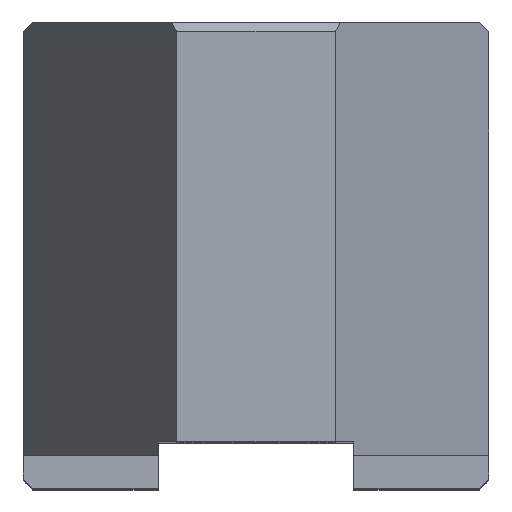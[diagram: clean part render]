
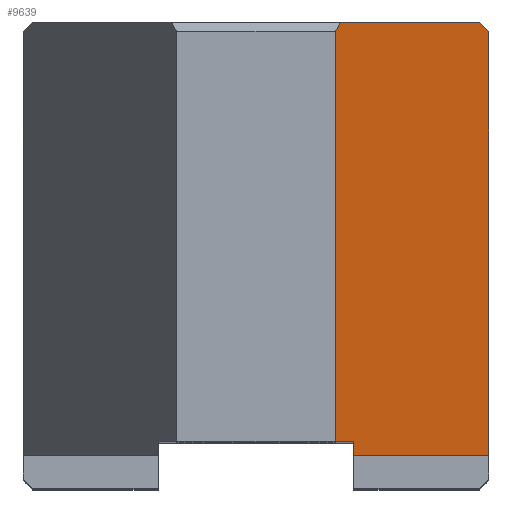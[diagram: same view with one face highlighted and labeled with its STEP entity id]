
A CAD part, top view. The second image highlights one B-rep face of the part: STEP entity #9639.
In plain terms, the highlighted planar face has unit normal (0.866, 0, 0.5).
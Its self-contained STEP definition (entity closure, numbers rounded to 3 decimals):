
#39=FACE_OUTER_BOUND('',#607,.T.);
#607=EDGE_LOOP('',(#6249,#6250,#6251,#6252,#6253,#6254,#6255,#6256));
#1181=LINE('',#13378,#2583);
#1182=LINE('',#13380,#2584);
#1183=LINE('',#13382,#2585);
#1184=LINE('',#13384,#2586);
#1185=LINE('',#13386,#2587);
#1186=LINE('',#13388,#2588);
#1187=LINE('',#13390,#2589);
#1188=LINE('',#13391,#2590);
#2583=VECTOR('',#10814,10.);
#2584=VECTOR('',#10815,10.);
#2585=VECTOR('',#10816,10.);
#2586=VECTOR('',#10817,10.);
#2587=VECTOR('',#10818,10.);
#2588=VECTOR('',#10819,10.);
#2589=VECTOR('',#10820,10.);
#2590=VECTOR('',#10821,10.);
#3985=VERTEX_POINT('',#13376);
#3986=VERTEX_POINT('',#13377);
#3987=VERTEX_POINT('',#13379);
#3988=VERTEX_POINT('',#13381);
#3989=VERTEX_POINT('',#13383);
#3990=VERTEX_POINT('',#13385);
#3991=VERTEX_POINT('',#13387);
#3992=VERTEX_POINT('',#13389);
#4835=EDGE_CURVE('',#3985,#3986,#1181,.T.);
#4836=EDGE_CURVE('',#3987,#3985,#1182,.T.);
#4837=EDGE_CURVE('',#3988,#3987,#1183,.T.);
#4838=EDGE_CURVE('',#3989,#3988,#1184,.T.);
#4839=EDGE_CURVE('',#3990,#3989,#1185,.T.);
#4840=EDGE_CURVE('',#3991,#3990,#1186,.T.);
#4841=EDGE_CURVE('',#3992,#3991,#1187,.T.);
#4842=EDGE_CURVE('',#3986,#3992,#1188,.T.);
#6249=ORIENTED_EDGE('',*,*,#4835,.F.);
#6250=ORIENTED_EDGE('',*,*,#4836,.F.);
#6251=ORIENTED_EDGE('',*,*,#4837,.F.);
#6252=ORIENTED_EDGE('',*,*,#4838,.F.);
#6253=ORIENTED_EDGE('',*,*,#4839,.F.);
#6254=ORIENTED_EDGE('',*,*,#4840,.F.);
#6255=ORIENTED_EDGE('',*,*,#4841,.F.);
#6256=ORIENTED_EDGE('',*,*,#4842,.F.);
#9077=PLANE('',#10230);
#9639=ADVANCED_FACE('',(#39),#9077,.F.);
#10230=AXIS2_PLACEMENT_3D('',#13375,#10812,#10813);
#10812=DIRECTION('center_axis',(-0.866,0.,-0.5));
#10813=DIRECTION('ref_axis',(-0.5,0.,0.866));
#10814=DIRECTION('',(0.,1.,0.));
#10815=DIRECTION('',(-0.5,0.,0.866));
#10816=DIRECTION('',(0.,-1.,0.));
#10817=DIRECTION('',(0.447,-0.447,-0.775));
#10818=DIRECTION('',(0.5,0.,-0.866));
#10819=DIRECTION('',(0.378,0.655,-0.655));
#10820=DIRECTION('',(0.,1.,0.));
#10821=DIRECTION('',(-0.5,0.,0.866));
#13375=CARTESIAN_POINT('Origin',(25.,3.5,36.421));
#13376=CARTESIAN_POINT('',(10.5,3.5,61.536));
#13377=CARTESIAN_POINT('',(10.5,5.,61.536));
#13378=CARTESIAN_POINT('',(10.5,4.25,61.536));
#13379=CARTESIAN_POINT('',(25.,3.5,36.421));
#13380=CARTESIAN_POINT('',(21.112,3.5,43.155));
#13381=CARTESIAN_POINT('',(25.,49.,36.421));
#13382=CARTESIAN_POINT('',(25.,1.75,36.421));
#13383=CARTESIAN_POINT('',(24.,50.,38.153));
#13384=CARTESIAN_POINT('',(30.129,43.871,27.537));
#13385=CARTESIAN_POINT('',(9.077,50.,64.));
#13386=CARTESIAN_POINT('',(29.76,50.,28.176));
#13387=CARTESIAN_POINT('',(8.5,49.,65.));
#13388=CARTESIAN_POINT('',(6.209,45.032,68.968));
#13389=CARTESIAN_POINT('',(8.5,5.,65.));
#13390=CARTESIAN_POINT('',(8.5,1.75,65.));
#13391=CARTESIAN_POINT('',(14.375,5.,54.824));
